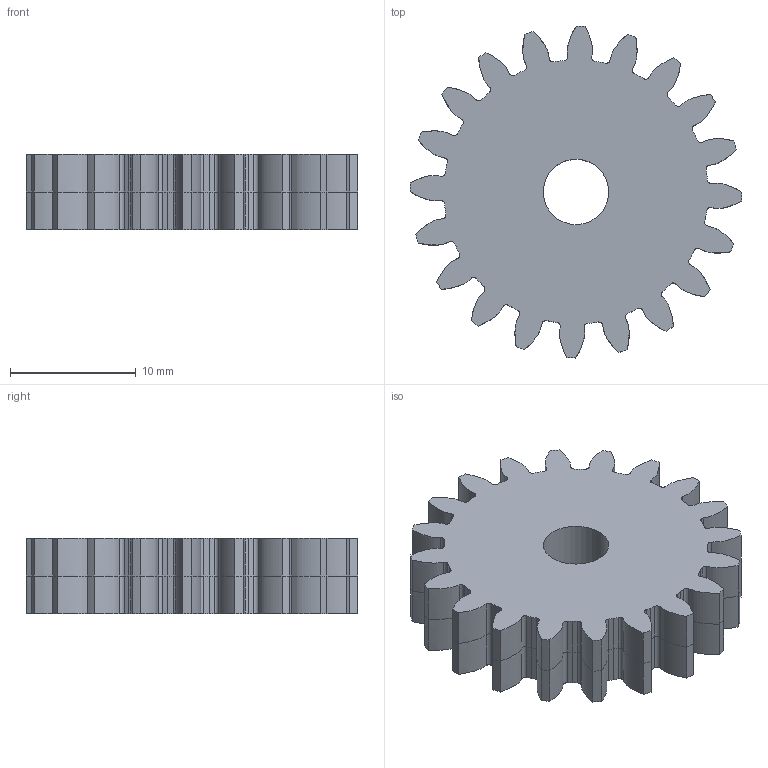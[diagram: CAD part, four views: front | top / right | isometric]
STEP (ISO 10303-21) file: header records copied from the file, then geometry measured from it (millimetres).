
FILE_DESCRIPTION(('Open CASCADE Model'),'2;1');
FILE_NAME('TH_idler_0','2026-11-05T16:12:19',('Author'),('Open CASCADE') ,'Open CASCADE STEP processor 7.9','build123d','Unknown');
FILE_SCHEMA(('AUTOMOTIVE_DESIGN { 1 0 10303 214 1 1 1 1 }'));
Length unit declared in the file: millimetre
Products named in the file (2): TH_idler_0
Assembly tree (1 placements, depth 2):
  TH_idler_0
    TH_idler_0
Bounding box: 26.4 x 26.4 x 6 mm (x, y, z)
Volume: 2491.3 mm3; surface area: 1843 mm2
Topology: 1 solids, 1 shells, 283 faces, 703 edges, 422 vertices
Faces by surface type: cylinder 201, extrusion 80, plane 2
Full cylindrical faces by diameter (mm): 5.2 x1
Entity records: 24134 total; most frequent: CARTESIAN_POINT 9816, DIRECTION 2701, VECTOR 1485, ORIENTED_EDGE 1406, PCURVE 1406, DEFINITIONAL_REPRESENTATION 1406, LINE 1405, EDGE_CURVE 703
